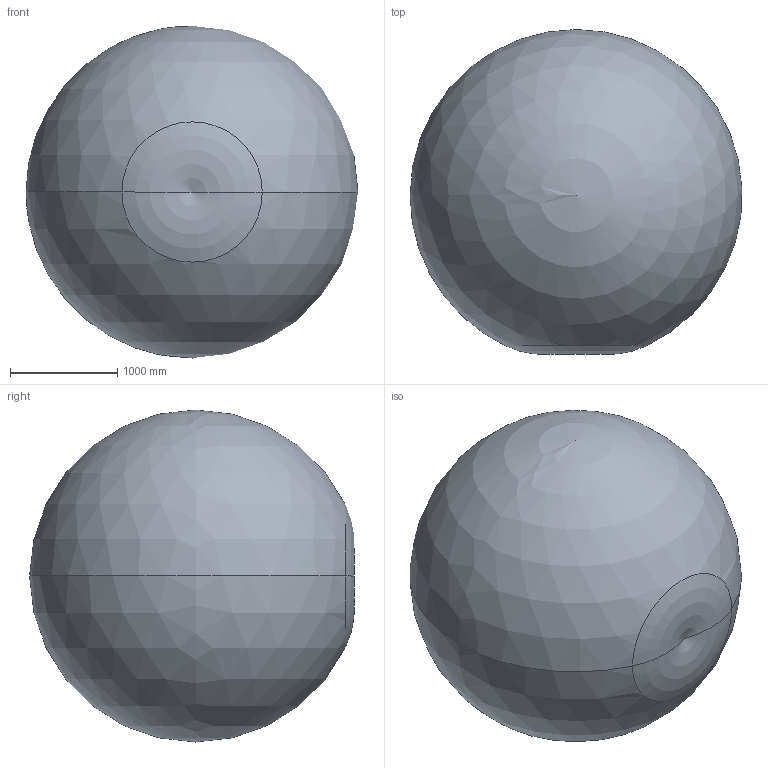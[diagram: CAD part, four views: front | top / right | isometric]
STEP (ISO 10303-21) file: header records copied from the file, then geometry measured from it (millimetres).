
FILE_DESCRIPTION (( 'STEP AP214' ), '1' );
FILE_NAME ('SMART NS 12-1,85 FOUNDRY_HAND_061023(3D-STEP).STEP', '2006-10-24T09:52:20', ( ' ' ), ( ' ' ), 'SwSTEP 2.0', 'SolidWorks 2005235', '' );
FILE_SCHEMA (( 'AUTOMOTIVE_DESIGN' ));
Length unit declared in the file: millimetre
Products named in the file (15): 82309010-120902-SM; 82280824-041028; 82309020-120902-SM; SMART NS 12-1,85 FOUNDRY_HAND_061023(3D-STEP); 82280809; 82280801-040128; 82280811-040128; 82280815-040128; Operation area SMART NS-12-1,85; 82309030-180202-SM; 82280804-040128; 82280805-040128; 82280819-040128; 82280822-060911; 82280823-060911
Assembly tree (17 placements, depth 2):
  SMART NS 12-1,85 FOUNDRY_HAND_061023(3D-STEP)
    82280811-040128
    Operation area SMART NS-12-1,85
    82309020-120902-SM  x2
    82280819-040128
    82309010-120902-SM  x3
    82280809
    82280815-040128
    82309030-180202-SM
    82280804-040128
    82280824-041028
    82280805-040128
    82280822-060911
    82280823-060911
    82280801-040128
Bounding box: 3098.87 x 3034.52 x 3100.74 mm (x, y, z)
Volume: 15420665528.9 mm3; surface area: 38824513.2 mm2
Topology: 17 solids, 18 shells, 2159 faces, 5816 edges, 3784 vertices
Faces by surface type: plane 1048, cylinder 796, bspline 137, cone 103, torus 63, sphere 12
Entity records: 87155 total; most frequent: CARTESIAN_POINT 32506, ORIENTED_EDGE 10554, DIRECTION 9989, EDGE_CURVE 5277, AXIS2_PLACEMENT_3D 3546, VERTEX_POINT 3456, VECTOR 2897, LINE 2897
